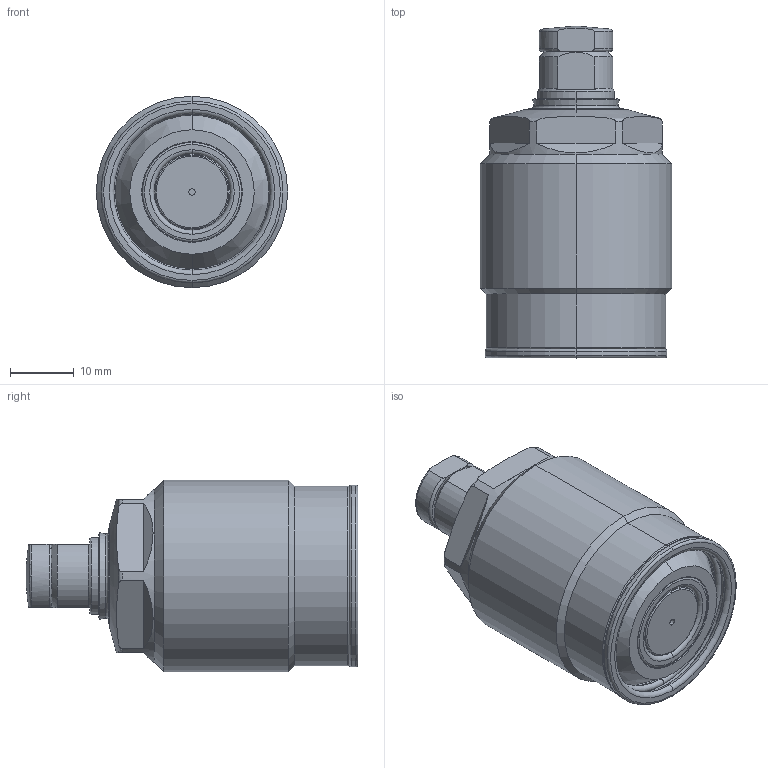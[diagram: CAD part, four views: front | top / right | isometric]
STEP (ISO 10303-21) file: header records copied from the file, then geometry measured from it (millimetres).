
FILE_DESCRIPTION(/* description */ (''),/* implementation_level */ '2;1');
FILE_NAME(/* name */ 'TSC30-S.stp',/* time_stamp */ '2024-11-02T14:35:46+08:00',/* author */ (''),/* organization */ (''),/* preprocessor_version */ 'ST-DEVELOPER v16.7',/* originating_system */ 'SIEMENS PLM Software NX 12.0',/* authorisation */ '');
FILE_SCHEMA (('AP203_CONFIGURATION_CONTROLLED_3D_DESIGN_OF_MECHANICAL_PARTS_AND_ASSEMBLIES_MIM_LF { 1 0 10303 403 2 1 2}'));
Length unit declared in the file: millimetre
Products named in the file (7): XLD-M8_Oring1817; XLD-M8_contactbolt5652; TSC30-S-04; TSC30-S-03; TSC30-S-02; TSC30-S-01; LD0303-x-S_step
Assembly tree (6 placements, depth 3):
  LD0303-x-S_step
    TSC30-S-01
      XLD-M8_contactbolt5652
      XLD-M8_Oring1817
    TSC30-S-02
    TSC30-S-03
    TSC30-S-04
Bounding box: 30 x 52 x 30 mm (x, y, z)
Volume: 25687.5 mm3; surface area: 7753.6 mm2
Topology: 5 solids, 5 shells, 174 faces, 380 edges, 228 vertices
Faces by surface type: torus 64, cylinder 43, plane 39, cone 26, sphere 2
Entity records: 5885 total; most frequent: CARTESIAN_POINT 1173, DIRECTION 939, ORIENTED_EDGE 760, AXIS2_PLACEMENT_3D 422, EDGE_CURVE 380, CIRCLE 241, VERTEX_POINT 228, EDGE_LOOP 190
